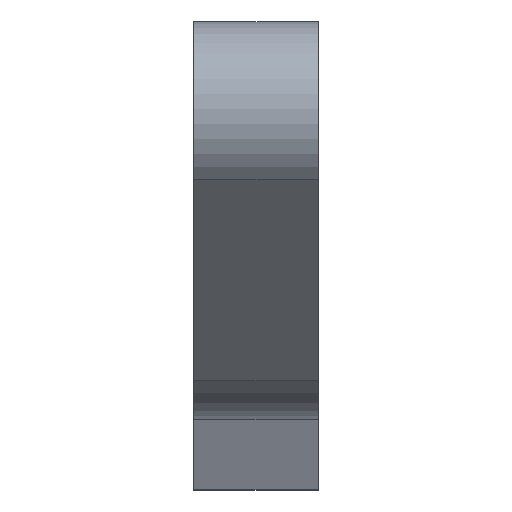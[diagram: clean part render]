
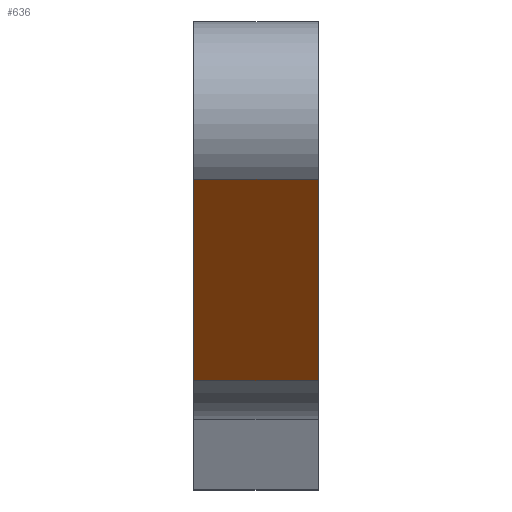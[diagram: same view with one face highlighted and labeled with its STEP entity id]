
A CAD part, left-side view. The second image highlights one B-rep face of the part: STEP entity #636.
In plain terms, the highlighted planar face has unit normal (-0.728, 0, -0.685).
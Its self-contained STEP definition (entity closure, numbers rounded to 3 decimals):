
#39 = VECTOR ( 'NONE', #228, 1000. ) ;
#58 = ORIENTED_EDGE ( 'NONE', *, *, #551, .F. ) ;
#63 = CARTESIAN_POINT ( 'NONE',  ( -9.015, 4., 6.994 ) ) ;
#130 = CARTESIAN_POINT ( 'NONE',  ( -9.015, 0., 6.994 ) ) ;
#139 = AXIS2_PLACEMENT_3D ( 'NONE', #459, #689, #400 ) ;
#174 = DIRECTION ( 'NONE',  ( 0.685, 0., -0.728 ) ) ;
#180 = VECTOR ( 'NONE', #559, 1000. ) ;
#221 = DIRECTION ( 'NONE',  ( 0.685, 0., -0.728 ) ) ;
#224 = PLANE ( 'NONE',  #139 ) ;
#228 = DIRECTION ( 'NONE',  ( 0., -1., 0. ) ) ;
#256 = ORIENTED_EDGE ( 'NONE', *, *, #580, .F. ) ;
#262 = LINE ( 'NONE', #725, #180 ) ;
#277 = CARTESIAN_POINT ( 'NONE',  ( -9.015, 4., 6.994 ) ) ;
#304 = ORIENTED_EDGE ( 'NONE', *, *, #535, .T. ) ;
#366 = VECTOR ( 'NONE', #221, 1000. ) ;
#381 = LINE ( 'NONE', #617, #366 ) ;
#400 = DIRECTION ( 'NONE',  ( -0.685, 0., 0.728 ) ) ;
#404 = CARTESIAN_POINT ( 'NONE',  ( -2.913, 0., 0.509 ) ) ;
#432 = VERTEX_POINT ( 'NONE', #492 ) ;
#459 = CARTESIAN_POINT ( 'NONE',  ( -1.291, 4., -1.215 ) ) ;
#463 = FACE_OUTER_BOUND ( 'NONE', #494, .T. ) ;
#492 = CARTESIAN_POINT ( 'NONE',  ( -2.913, 4., 0.509 ) ) ;
#494 = EDGE_LOOP ( 'NONE', ( #58, #256, #693, #304 ) ) ;
#535 = EDGE_CURVE ( 'NONE', #432, #629, #262, .T. ) ;
#551 = EDGE_CURVE ( 'NONE', #674, #629, #381, .T. ) ;
#559 = DIRECTION ( 'NONE',  ( 0., -1., 0. ) ) ;
#580 = EDGE_CURVE ( 'NONE', #704, #674, #588, .T. ) ;
#588 = LINE ( 'NONE', #277, #39 ) ;
#591 = VECTOR ( 'NONE', #174, 1000. ) ;
#597 = EDGE_CURVE ( 'NONE', #704, #432, #703, .T. ) ;
#617 = CARTESIAN_POINT ( 'NONE',  ( -1.291, 0., -1.215 ) ) ;
#629 = VERTEX_POINT ( 'NONE', #404 ) ;
#636 = ADVANCED_FACE ( 'NONE', ( #463 ), #224, .T. ) ;
#674 = VERTEX_POINT ( 'NONE', #130 ) ;
#689 = DIRECTION ( 'NONE',  ( -0.728, 0., -0.685 ) ) ;
#693 = ORIENTED_EDGE ( 'NONE', *, *, #597, .T. ) ;
#703 = LINE ( 'NONE', #742, #591 ) ;
#704 = VERTEX_POINT ( 'NONE', #63 ) ;
#725 = CARTESIAN_POINT ( 'NONE',  ( -2.913, 4., 0.509 ) ) ;
#742 = CARTESIAN_POINT ( 'NONE',  ( -1.291, 4., -1.215 ) ) ;
